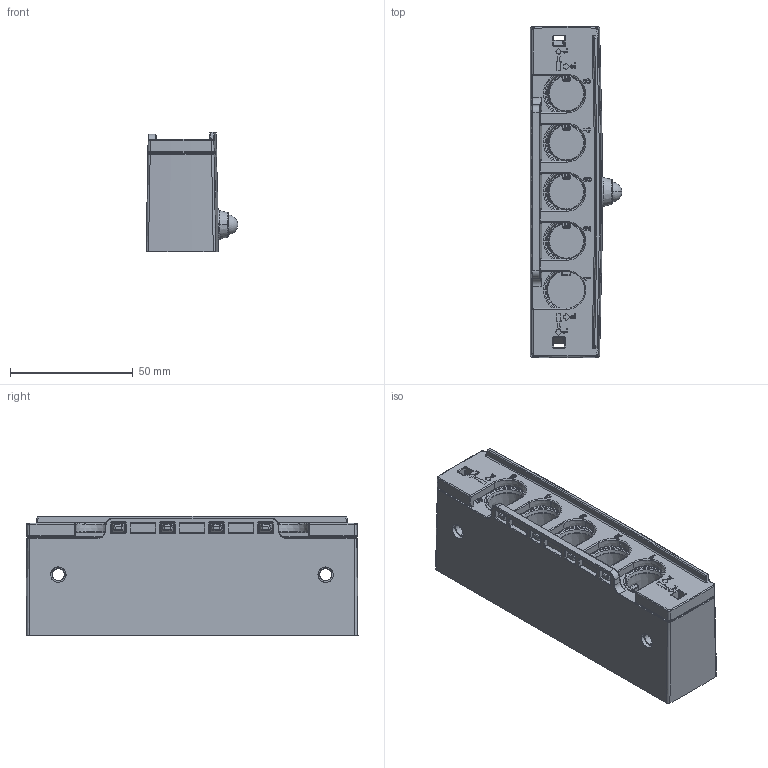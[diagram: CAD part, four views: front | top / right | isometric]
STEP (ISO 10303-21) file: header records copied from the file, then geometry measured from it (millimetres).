
FILE_DESCRIPTION((''),'2;1');
FILE_NAME('0835010_ASM','2020-03-18T12:13:28',('psj'),(''),'CREO PARAMETRIC BY PTC INC, 2019344','CREO PARAMETRIC BY PTC INC, 2019344','');
FILE_SCHEMA(('AUTOMOTIVE_DESIGN { 1 0 10303 214 1 1 1 1 }'));
Length unit declared in the file: millimetre
Products named in the file (3): 0835010-BP; 0835010-LOCK; 0835010_ASM
Assembly tree (2 placements, depth 2):
  0835010_ASM
    0835010-BP
    0835010-LOCK
Bounding box: 37.4 x 135.36 x 48.9 mm (x, y, z)
Volume: 130323.9 mm3; surface area: 47865.8 mm2
Topology: 2 solids, 2 shells, 2327 faces, 5913 edges, 3616 vertices
Faces by surface type: plane 781, cylinder 671, bspline 374, extrusion 161, cone 150, torus 110, sphere 80
Entity records: 90692 total; most frequent: CARTESIAN_POINT 38658, ORIENTED_EDGE 11802, DIRECTION 9220, EDGE_CURVE 5901, VERTEX_POINT 3616, AXIS2_PLACEMENT_3D 3084, VECTOR 3052, LINE 2891
